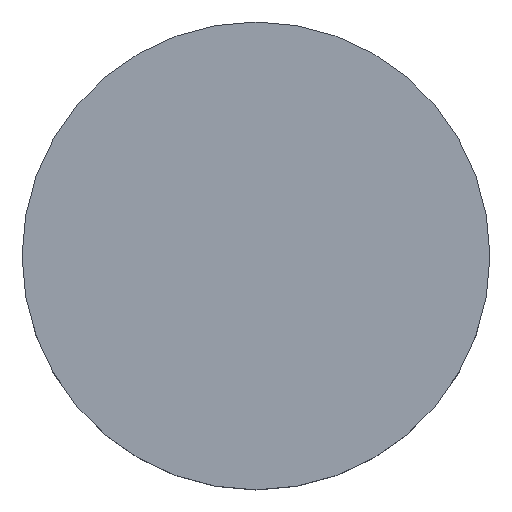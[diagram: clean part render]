
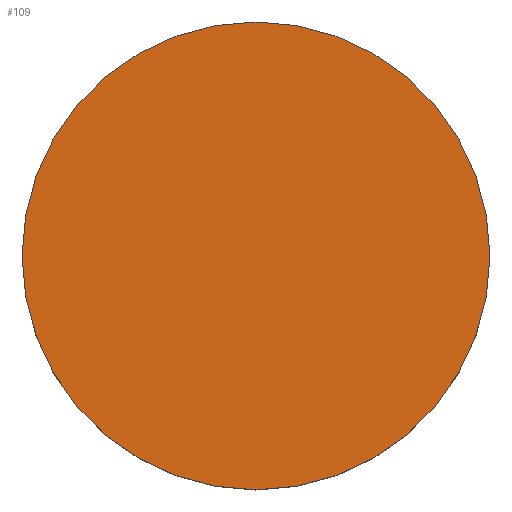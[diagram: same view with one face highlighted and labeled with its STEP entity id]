
A CAD part, top view. The second image highlights one B-rep face of the part: STEP entity #109.
In plain terms, the highlighted planar face has unit normal (0, 0, 1).
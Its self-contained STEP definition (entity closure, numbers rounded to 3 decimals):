
#24 = VERTEX_POINT('',#25);
#25 = CARTESIAN_POINT('',(5.,0.,2.1));
#32 = CYLINDRICAL_SURFACE('',#33,5.);
#33 = AXIS2_PLACEMENT_3D('',#34,#35,#36);
#34 = CARTESIAN_POINT('',(0.,0.,0.));
#35 = DIRECTION('',(-0.,-0.,-1.));
#36 = DIRECTION('',(1.,0.,0.));
#51 = EDGE_CURVE('',#24,#24,#52,.T.);
#52 = SURFACE_CURVE('',#53,(#58,#65),.PCURVE_S1.);
#53 = CIRCLE('',#54,5.);
#54 = AXIS2_PLACEMENT_3D('',#55,#56,#57);
#55 = CARTESIAN_POINT('',(0.,0.,2.1));
#56 = DIRECTION('',(0.,0.,1.));
#57 = DIRECTION('',(1.,0.,0.));
#58 = PCURVE('',#32,#59);
#59 = DEFINITIONAL_REPRESENTATION('',(#60),#64);
#60 = LINE('',#61,#62);
#61 = CARTESIAN_POINT('',(-0.,-2.1));
#62 = VECTOR('',#63,1.);
#63 = DIRECTION('',(-1.,0.));
#64 = ( GEOMETRIC_REPRESENTATION_CONTEXT(2) 
PARAMETRIC_REPRESENTATION_CONTEXT() REPRESENTATION_CONTEXT('2D SPACE',''
  ) );
#65 = PCURVE('',#66,#71);
#66 = PLANE('',#67);
#67 = AXIS2_PLACEMENT_3D('',#68,#69,#70);
#68 = CARTESIAN_POINT('',(0.,0.,2.1));
#69 = DIRECTION('',(0.,0.,1.));
#70 = DIRECTION('',(1.,0.,-0.));
#71 = DEFINITIONAL_REPRESENTATION('',(#72),#76);
#72 = CIRCLE('',#73,5.);
#73 = AXIS2_PLACEMENT_2D('',#74,#75);
#74 = CARTESIAN_POINT('',(0.,0.));
#75 = DIRECTION('',(1.,0.));
#76 = ( GEOMETRIC_REPRESENTATION_CONTEXT(2) 
PARAMETRIC_REPRESENTATION_CONTEXT() REPRESENTATION_CONTEXT('2D SPACE',''
  ) );
#109 = ADVANCED_FACE('',(#110),#66,.T.);
#110 = FACE_BOUND('',#111,.T.);
#111 = EDGE_LOOP('',(#112));
#112 = ORIENTED_EDGE('',*,*,#51,.T.);
